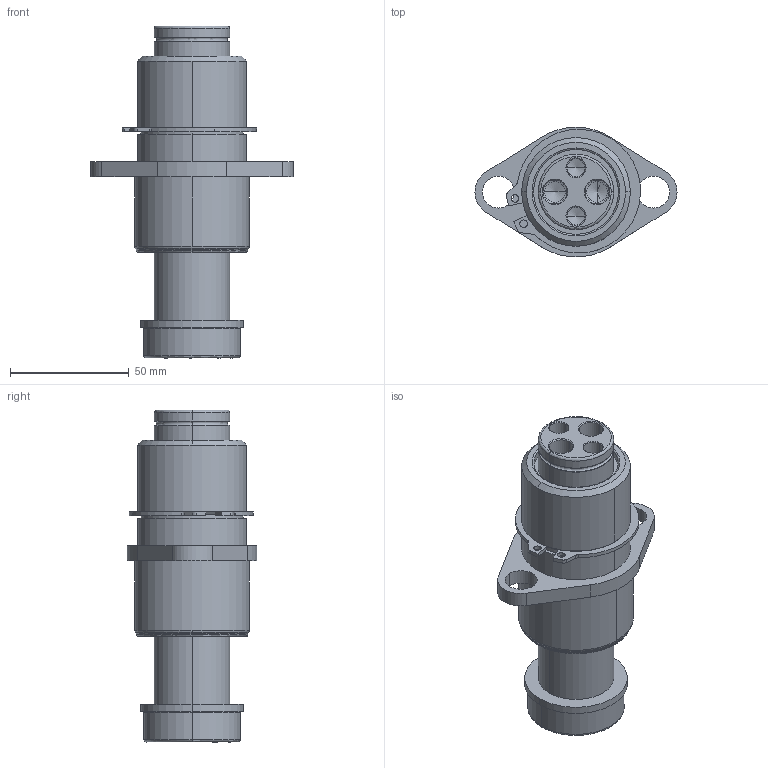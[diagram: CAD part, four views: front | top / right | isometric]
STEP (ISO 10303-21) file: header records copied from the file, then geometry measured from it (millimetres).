
FILE_DESCRIPTION (( 'STEP AP214' ), '1' );
FILE_NAME ('GK120-N3-2-TB-M-XXX.STEP', '2020-09-21T16:04:05', ( '' ), ( '' ), 'SwSTEP 2.0', 'SolidWorks 2017', '' );
FILE_SCHEMA (( 'AUTOMOTIVE_DESIGN' ));
Length unit declared in the file: inch
Products named in the file (7): GK1.25-N3-2-TB-Base; GK120-M-XXX-GuidePin; RetainingRing; GK120-DampeningWasher; GK120-N3-2-TB-M-XXX
Assembly tree (6 placements, depth 3):
  GK120-N3-2-TB-M-XXX
    GK1.25-N3-2-TB-Base
      GK1.25-N3-2-TB-Base
      RetainingRing
    GK120-M-XXX-GuidePin
      GK120-M-XXX-GuidePin
      GK120-DampeningWasher
Bounding box: 85.09 x 54.52 x 139.7 mm (x, y, z)
Volume: 195125.2 mm3; surface area: 48643.5 mm2
Topology: 4 solids, 4 shells, 135 faces, 319 edges, 194 vertices
Faces by surface type: cylinder 61, cone 30, plane 24, bspline 20
Entity records: 4722 total; most frequent: CARTESIAN_POINT 1079, DIRECTION 733, ORIENTED_EDGE 622, EDGE_CURVE 311, AXIS2_PLACEMENT_3D 306, VERTEX_POINT 194, CIRCLE 180, EDGE_LOOP 157
